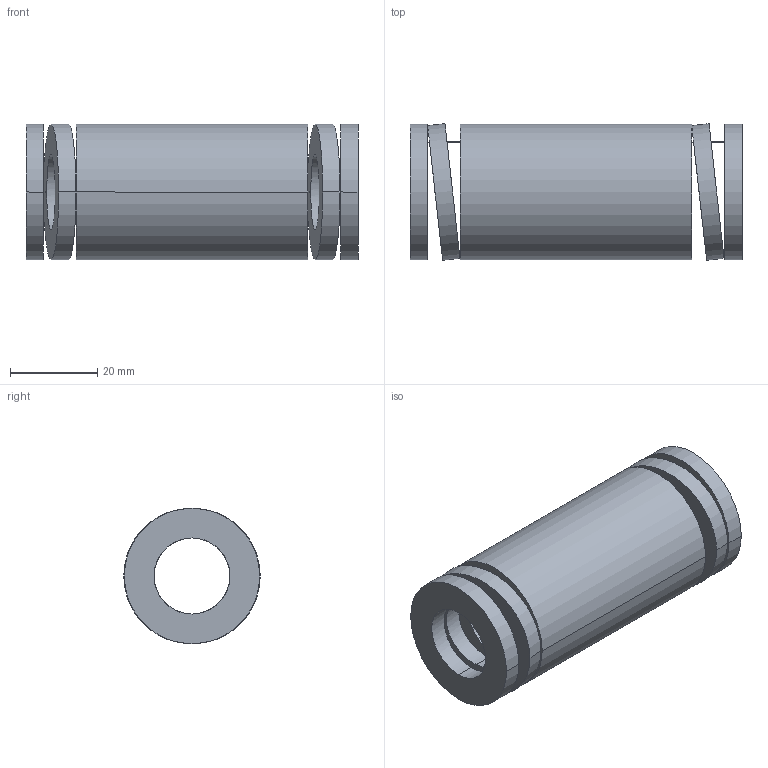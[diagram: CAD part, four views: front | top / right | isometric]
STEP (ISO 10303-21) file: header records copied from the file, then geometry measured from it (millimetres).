
FILE_DESCRIPTION(('CATIA V5 STEP Exchange'),'2;1');
FILE_NAME('C:\Users\Utente\Desktop\IO LAVORO\3D X SITO CF\X SITO\3D files 392B\392-B32-076.stp','2021-08-13T10:08:48+00:00',('none'),('none'),'CATIA Version 5 Release 20 GA (IN-10)','CATIA V5 STEP AP203','none');
FILE_SCHEMA(('CONFIG_CONTROL_DESIGN'));
Length unit declared in the file: millimetre
Products named in the file (1): 392-B32-076
Bounding box: 76 x 31.25 x 31 mm (x, y, z)
Volume: 35602.7 mm3; surface area: 15645.6 mm2
Topology: 1 solids, 1 shells, 38 faces, 92 edges, 64 vertices
Faces by surface type: cylinder 28, plane 10
Entity records: 1560 total; most frequent: CARTESIAN_POINT 667, ORIENTED_EDGE 184, DIRECTION 131, EDGE_CURVE 92, AXIS2_PLACEMENT_3D 66, VERTEX_POINT 64, EDGE_LOOP 56, ADVANCED_FACE 38
